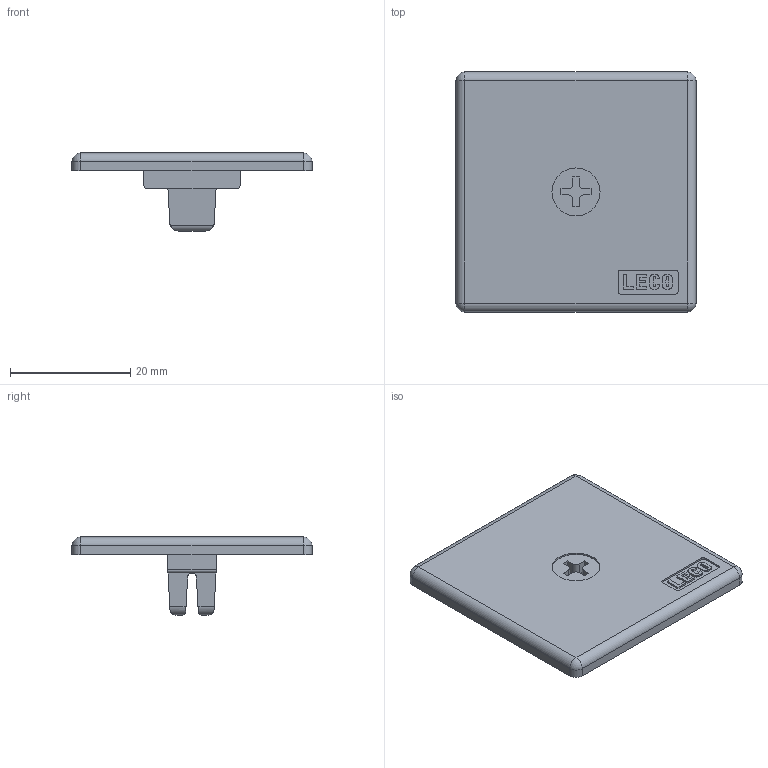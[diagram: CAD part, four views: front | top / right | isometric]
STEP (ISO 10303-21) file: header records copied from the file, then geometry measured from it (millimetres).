
FILE_DESCRIPTION(('STEP AP214'),'1');
FILE_NAME('EP44S.stp','2017-07-24T04:56:30',(' '),(' '),'Spatial InterOp 3D',' ',' ');
FILE_SCHEMA(('automotive_design'));
Length unit declared in the file: millimetre
Products named in the file (1): EP44S
Bounding box: 40 x 40 x 13 mm (x, y, z)
Volume: 5103.6 mm3; surface area: 4207.4 mm2
Topology: 1 solids, 1 shells, 151 faces, 397 edges, 254 vertices
Faces by surface type: plane 82, cylinder 65, sphere 4
Full cylindrical faces by diameter (mm): 8 x1
Entity records: 5884 total; most frequent: CARTESIAN_POINT 862, DIRECTION 810, ORIENTED_EDGE 784, EDGE_CURVE 392, AXIS2_PLACEMENT_3D 274, LINE 262, VECTOR 262, VERTEX_POINT 254
